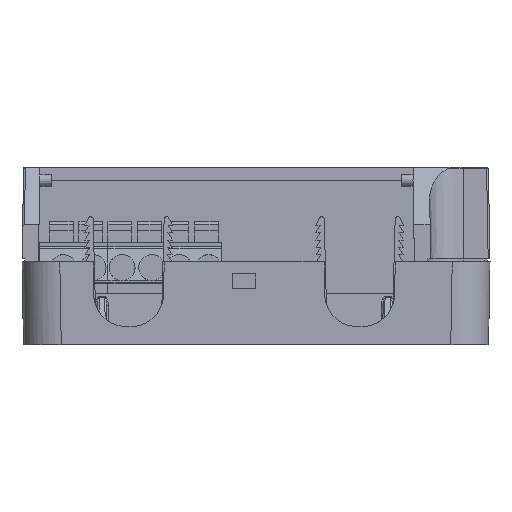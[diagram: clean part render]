
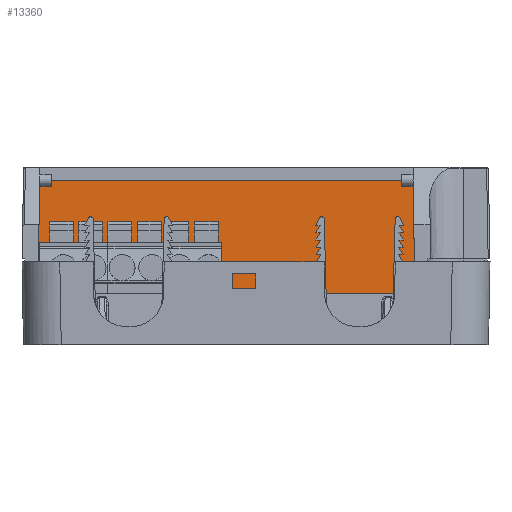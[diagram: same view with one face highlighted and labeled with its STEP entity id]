
A CAD part, left-side view. The second image highlights one B-rep face of the part: STEP entity #13360.
In plain terms, the highlighted planar face has unit normal (-1, 0, -0.018).
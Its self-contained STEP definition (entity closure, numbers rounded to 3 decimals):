
#526 = EDGE_CURVE ( 'NONE', #20778, #32398, #55863, .T. ) ;
#2932 = CARTESIAN_POINT ( 'NONE',  ( 48.606, 136.358, 155.142 ) ) ;
#3537 = CARTESIAN_POINT ( 'NONE',  ( 48.548, 136.3, 158.45 ) ) ;
#6347 = DIRECTION ( 'NONE',  ( 0.017, 0., -1. ) ) ;
#8079 = ORIENTED_EDGE ( 'NONE', *, *, #11755, .T. ) ;
#10277 = CARTESIAN_POINT ( 'NONE',  ( 48.539, 135.801, 158.941 ) ) ;
#11755 = EDGE_CURVE ( 'NONE', #19800, #77505, #49625, .T. ) ;
#12501 = CARTESIAN_POINT ( 'NONE',  ( 48.199, 74.327, 178.441 ) ) ;
#12664 = EDGE_CURVE ( 'NONE', #32398, #13414, #59931, .T. ) ;
#12838 = VECTOR ( 'NONE', #47616, 1000. ) ;
#13360 = ADVANCED_FACE ( 'NONE', ( #33676 ), #39819, .T. ) ;
#13414 = VERTEX_POINT ( 'NONE', #60523 ) ;
#15985 = CARTESIAN_POINT ( 'NONE',  ( 48.548, 136.3, 158.45 ) ) ;
#16296 = LINE ( 'NONE', #2932, #67661 ) ;
#16361 = DIRECTION ( 'NONE',  ( 0., -1., 0. ) ) ;
#17321 = CARTESIAN_POINT ( 'NONE',  ( 48.18, 137.308, 179.54 ) ) ;
#17563 = EDGE_CURVE ( 'NONE', #27165, #39665, #16296, .T. ) ;
#18987 = EDGE_CURVE ( 'NONE', #27165, #19800, #81493, .T. ) ;
#19725 = CARTESIAN_POINT ( 'NONE',  ( 48.199, 137.327, 178.441 ) ) ;
#19800 = VERTEX_POINT ( 'NONE', #60320 ) ;
#20778 = VERTEX_POINT ( 'NONE', #76256 ) ;
#21492 = CARTESIAN_POINT ( 'NONE',  ( 48.199, 74.327, 178.441 ) ) ;
#24047 = DIRECTION ( 'NONE',  ( -0.017, -0.017, 1. ) ) ;
#24287 = VECTOR ( 'NONE', #35033, 1000. ) ;
#26054 = ORIENTED_EDGE ( 'NONE', *, *, #17563, .F. ) ;
#27165 = VERTEX_POINT ( 'NONE', #15985 ) ;
#30722 = LINE ( 'NONE', #40878, #12838 ) ;
#31197 = CARTESIAN_POINT ( 'NONE',  ( 48.23, 74.295, 176.635 ) ) ;
#32301 = ORIENTED_EDGE ( 'NONE', *, *, #12664, .F. ) ;
#32398 = VERTEX_POINT ( 'NONE', #19725 ) ;
#33676 = FACE_OUTER_BOUND ( 'NONE', #37580, .T. ) ;
#35033 = DIRECTION ( 'NONE',  ( 0., -1., 0. ) ) ;
#36453 = DIRECTION ( 'NONE',  ( 0.017, 0.017, -1. ) ) ;
#37045 = CARTESIAN_POINT ( 'NONE',  ( 48.543, 136.295, 158.739 ) ) ;
#37580 = EDGE_LOOP ( 'NONE', ( #32301, #57362, #76337, #26054, #55280, #8079, #43461 ) ) ;
#37963 = DIRECTION ( 'NONE',  ( -0.017, 0.017, 1. ) ) ;
#39665 = VERTEX_POINT ( 'NONE', #63040 ) ;
#39819 = PLANE ( 'NONE',  #72639 ) ;
#40878 = CARTESIAN_POINT ( 'NONE',  ( 48.574, 74.327, 156.941 ) ) ;
#43461 = ORIENTED_EDGE ( 'NONE', *, *, #53493, .T. ) ;
#43771 = CARTESIAN_POINT ( 'NONE',  ( 48.539, 136.089, 158.941 ) ) ;
#44515 = VECTOR ( 'NONE', #37963, 1000. ) ;
#46548 = DIRECTION ( 'NONE',  ( -1., 0., -0.017 ) ) ;
#47616 = DIRECTION ( 'NONE',  ( 0., 1., 0. ) ) ;
#49625 = LINE ( 'NONE', #63254, #67408 ) ;
#49647 = CARTESIAN_POINT ( 'NONE',  ( 48.539, 73.986, 158.941 ) ) ;
#53493 = EDGE_CURVE ( 'NONE', #77505, #13414, #62244, .T. ) ;
#53781 = VECTOR ( 'NONE', #24047, 1000. ) ;
#55280 = ORIENTED_EDGE ( 'NONE', *, *, #18987, .T. ) ;
#55863 = LINE ( 'NONE', #17321, #53781 ) ;
#57362 = ORIENTED_EDGE ( 'NONE', *, *, #526, .F. ) ;
#59931 = LINE ( 'NONE', #21492, #24287 ) ;
#60320 = CARTESIAN_POINT ( 'NONE',  ( 48.539, 135.801, 158.941 ) ) ;
#60523 = CARTESIAN_POINT ( 'NONE',  ( 48.199, 74.327, 178.441 ) ) ;
#62244 = LINE ( 'NONE', #31197, #44515 ) ;
#63040 = CARTESIAN_POINT ( 'NONE',  ( 48.574, 136.327, 156.941 ) ) ;
#63254 = CARTESIAN_POINT ( 'NONE',  ( 48.539, 140.327, 158.941 ) ) ;
#67408 = VECTOR ( 'NONE', #16361, 1000. ) ;
#67661 = VECTOR ( 'NONE', #36453, 1000. ) ;
#72639 = AXIS2_PLACEMENT_3D ( 'NONE', #12501, #46548, #6347 ) ;
#76256 = CARTESIAN_POINT ( 'NONE',  ( 48.574, 137.702, 156.941 ) ) ;
#76337 = ORIENTED_EDGE ( 'NONE', *, *, #79991, .F. ) ;
#77505 = VERTEX_POINT ( 'NONE', #49647 ) ;
#79991 = EDGE_CURVE ( 'NONE', #39665, #20778, #30722, .T. ) ;
#81493 =( BOUNDED_CURVE ( )  B_SPLINE_CURVE ( 3, ( #3537, #37045, #43771, #10277 ),
 .UNSPECIFIED., .F., .F. ) 
 B_SPLINE_CURVE_WITH_KNOTS ( ( 4, 4 ),
 ( 4.73, 6.283 ),
 .UNSPECIFIED. ) 
 CURVE ( )  GEOMETRIC_REPRESENTATION_ITEM ( )  RATIONAL_B_SPLINE_CURVE ( ( 1., 0.809, 0.809, 1. ) ) 
 REPRESENTATION_ITEM ( '' )  );
